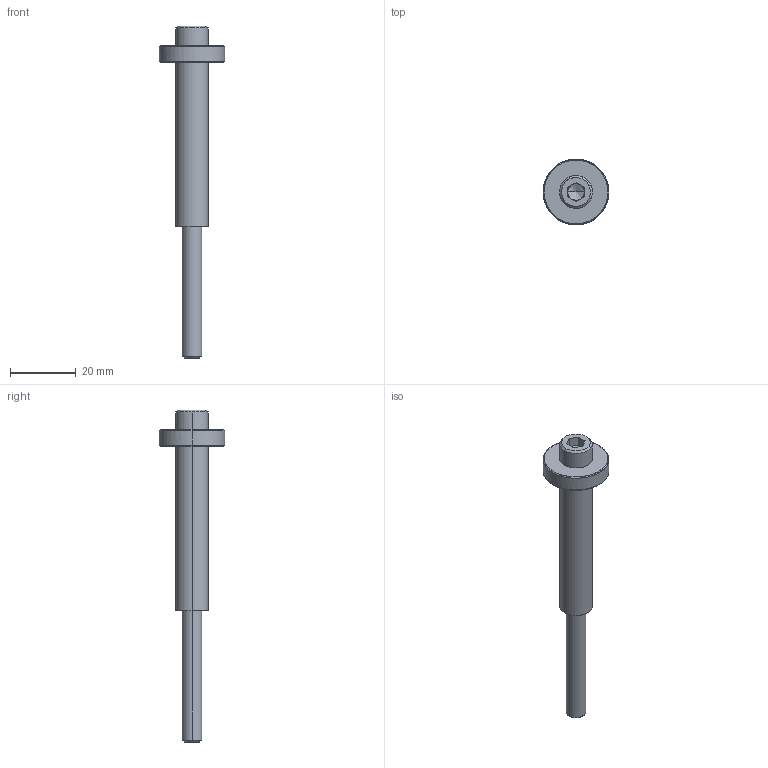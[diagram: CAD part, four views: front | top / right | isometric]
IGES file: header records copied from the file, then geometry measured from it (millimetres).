
Global section: file name: E:\UnigraphicsGraphicData\MISUMI_PRESS-PARTS\IGES\3d_sbrh10-50-95-20_05051_r00.igs; native system: NX V5.0; preprocessor: UGS NX IGES V5.0; author: MISUMI; date: 20110105.162428; units: millimetre
Bounding box: 20 x 19.94 x 101 mm (x, y, z)
Surface area: 5727 mm2 (no closed solid volume)
Topology: 0 solids, 0 shells, 45 faces, 252 edges, 250 vertices
Faces by surface type: bspline 45
